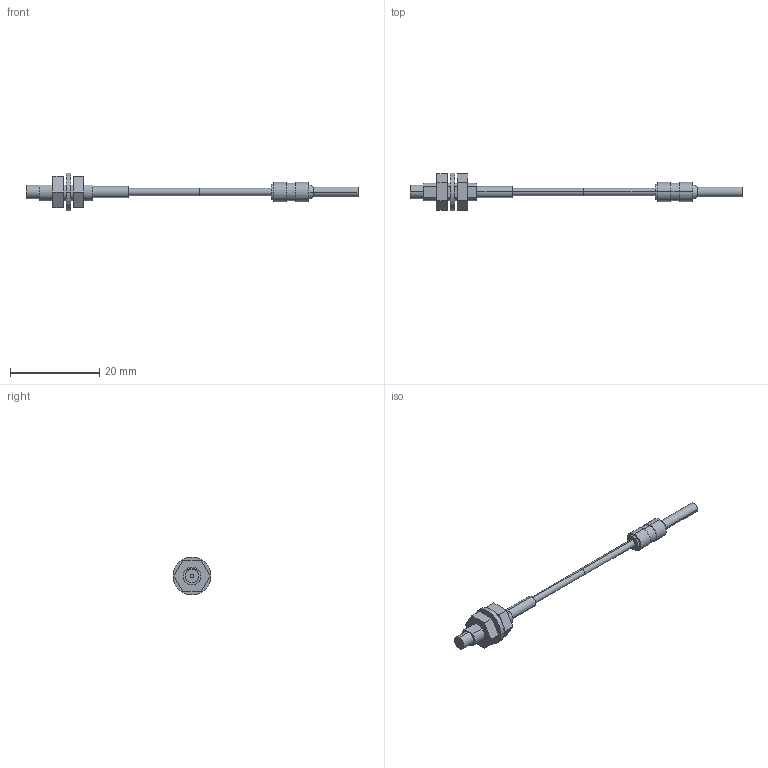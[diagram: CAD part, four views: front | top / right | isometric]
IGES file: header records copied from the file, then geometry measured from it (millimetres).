
Start section: SolidWorks IGES FILE using analytic representation for surfaces
Global section: file name: C:\Documents and Settings\yk0651\デスクトップ\3D_catalog_050929\0_IGES\FT-H20W-M1.IGS; native system: SolidWorks 2004 by SolidWorks Corporation; preprocessor: Version 5.3; author: yk0651; date: 051002.175944; units: millimetre
Bounding box: 74.5 x 8.5 x 8.5 mm (x, y, z)
Volume: 616.2 mm3; surface area: 1068.1 mm2
Topology: 5 solids, 5 shells, 63 faces, 130 edges, 86 vertices
Faces by surface type: plane 32, revolution 31
